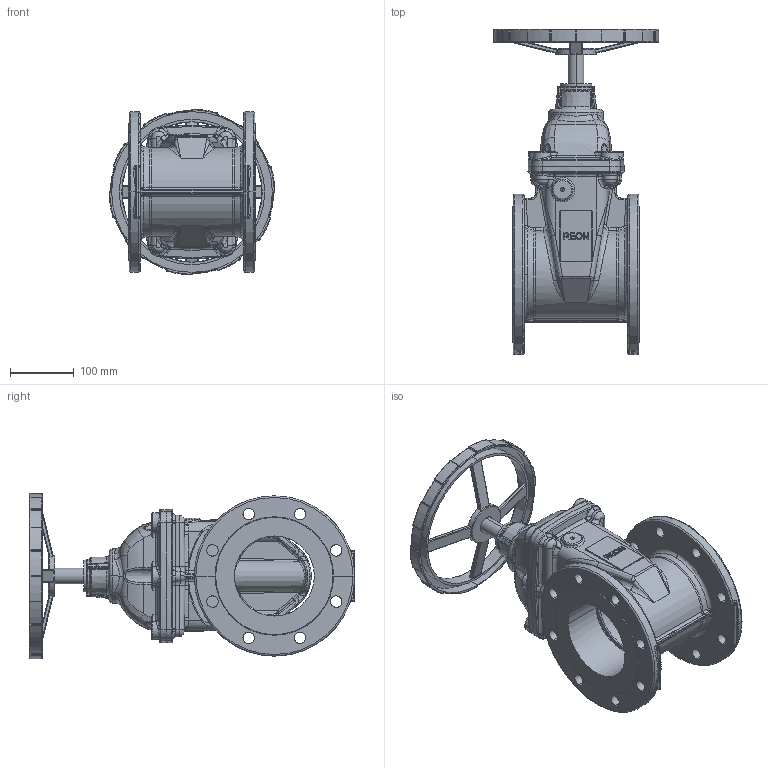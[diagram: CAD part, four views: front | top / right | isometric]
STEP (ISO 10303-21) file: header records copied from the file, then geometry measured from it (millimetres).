
FILE_DESCRIPTION (( 'STEP AP203' ), '1' );
FILE_NAME ('DN125掅概.STEP', '2026-09-23T03:49:48', ( 'Windows 蚚誧' ), ( 'Microsoft' ), 'SwSTEP 2.0', 'SolidWorks 2022', '' );
FILE_SCHEMA (( 'CONFIG_CONTROL_DESIGN' ));
Length unit declared in the file: millimetre
Products named in the file (8): DN125阀盖; hexagon socket head cap screws gb_GB_FASTENER_SCREWS_HSHCS M12X25-N; DN125阀体; D260手轮; DN125闸阀; DN125上铜母; DN125阀板; DN125阀杆
Assembly tree (13 placements, depth 2):
  DN125闸阀
    DN125阀体
    DN125阀盖
    DN125阀板  x2
    hexagon socket head cap screws gb_GB_FASTENER_SCREWS_HSHCS M12X25-N  x6
    DN125上铜母
    D260手轮
    DN125阀杆
Bounding box: 259.99 x 510.25 x 259.99 mm (x, y, z)
Volume: 3618863.8 mm3; surface area: 858815.4 mm2
Topology: 13 solids, 13 shells, 2222 faces, 5258 edges, 3038 vertices
Faces by surface type: bspline 814, cylinder 537, plane 342, torus 267, cone 167, sphere 95
Entity records: 113393 total; most frequent: CARTESIAN_POINT 77800, ORIENTED_EDGE 8856, DIRECTION 4935, EDGE_CURVE 4428, VERTEX_POINT 2571, B_SPLINE_CURVE_WITH_KNOTS 2244, AXIS2_PLACEMENT_3D 2076, EDGE_LOOP 1959
